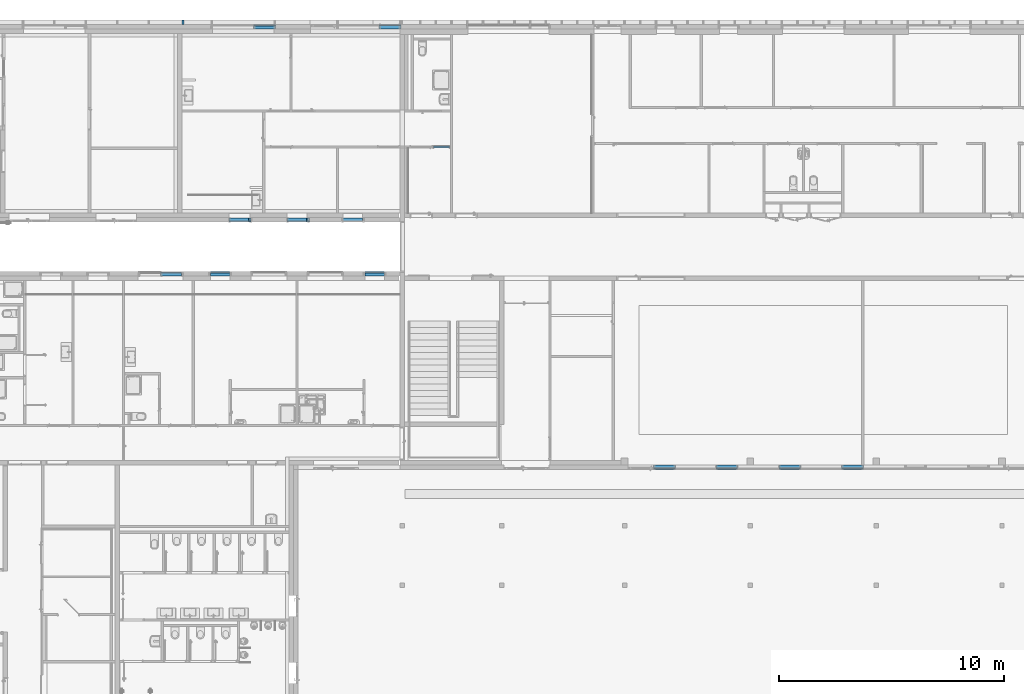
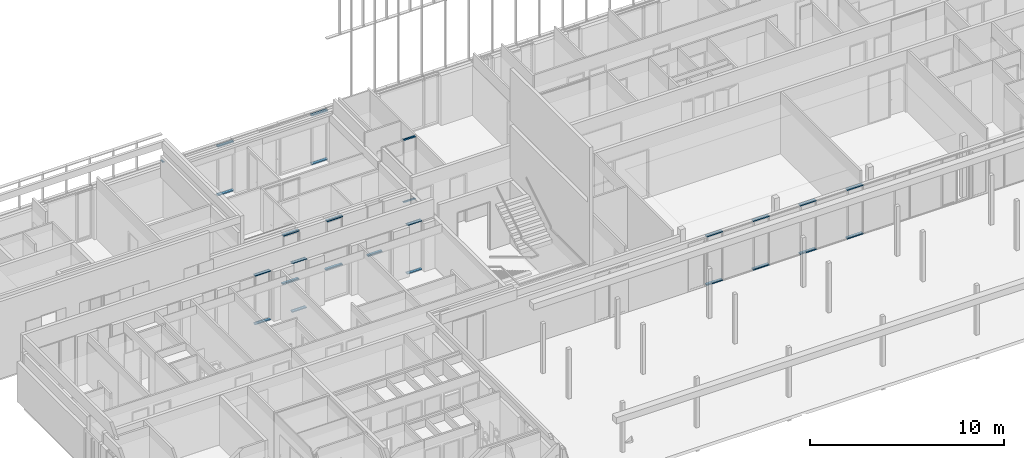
# One storey, part 39 of 240: 30 members, 11 elements without a shape of their own.
"""IFC2X3 building model written with IfcOpenShell, lengths in centimetres."""

import ifcopenshell
import ifcopenshell.guid

model = None  # the IFC model being written
_history = None  # IfcOwnerHistory: only IFC2X3 demands one
_inside = {}  # id of a spatial element -> (the spatial element, [elements in it])
_under = {}  # id of a project, library or spatial element -> (it, [spatial elements below it])
_declared = {}  # id of a project -> (the project, [libraries it declares])
_typed = {}  # id of a type object -> (the type object, [elements of that type])
_made_of = {}  # id of a material, layer set ... -> (it, [elements and type objects made of it])


def new_model(schema):
    """Start an empty IFC model of exactly this schema.

    Asked for "IFC4X3", IfcOpenShell would pick the latest addendum, in which some entities
    have other attributes; the version numbers below select the first issue.
    IFC2X3 requires an IfcOwnerHistory on every rooted entity: one is made here for all.
    """
    global model, _history
    if schema == "IFC4X3":
        model = ifcopenshell.file(schema_version=(4, 3, 0, 0))
    else:
        model = ifcopenshell.file(schema=schema)
    _inside.clear()
    _under.clear()
    _declared.clear()
    _typed.clear()
    _made_of.clear()
    _history = None
    if model.schema == "IFC2X3":
        org = make("IfcOrganization", Name="unknown")
        user = make(
            "IfcPersonAndOrganization",
            ThePerson=make("IfcPerson", FamilyName="unknown"),
            TheOrganization=org,
        )
        app = make(
            "IfcApplication",
            ApplicationDeveloper=org,
            Version="unknown",
            ApplicationFullName="unknown",
            ApplicationIdentifier="unknown",
        )
        _history = make(
            "IfcOwnerHistory",
            OwningUser=user,
            OwningApplication=app,
            ChangeAction="ADDED",
            CreationDate=0,
        )
    return model


def make(cls, **values):
    """One entity of the class cls with the attributes given. An attribute that is None is left unset."""
    return model.create_entity(
        cls, **{name: value for name, value in values.items() if value is not None}
    )


def entity(cls, *values):
    """Any entity or typed value of the class cls, its attributes in the order of the schema. None: left unset."""
    e = model.create_entity(cls)
    for i, value in enumerate(values):
        if value is not None:
            e[i] = value
    return e


def rooted(cls, **values):
    """An entity with a GlobalId (a new one), such as an element, a storey or a relation."""
    return make(cls, GlobalId=ifcopenshell.guid.new(), OwnerHistory=_history, **values)


def si_unit(unit_type, name, prefix=None):
    """IfcSIUnit, for example si_unit("LENGTHUNIT", "METRE", prefix="MILLI")."""
    return make("IfcSIUnit", UnitType=unit_type, Prefix=prefix, Name=name)


def converted_unit(unit_type, name, factor, base, dimensions=None, offset=None):
    """IfcConversionBasedUnit, such as the inch: factor (a typed value) times the base unit."""
    return make(
        "IfcConversionBasedUnit"
        if offset is None
        else "IfcConversionBasedUnitWithOffset",
        ConversionOffset=offset,
        Dimensions=None
        if dimensions is None
        else entity("IfcDimensionalExponents", *dimensions),
        UnitType=unit_type,
        Name=name,
        ConversionFactor=make(
            "IfcMeasureWithUnit", ValueComponent=factor, UnitComponent=base
        ),
    )


def derived_unit(unit_type, elements):
    """IfcDerivedUnit: a product of units, each with its exponent."""
    return make(
        "IfcDerivedUnit",
        Elements=[
            make("IfcDerivedUnitElement", Unit=unit, Exponent=power)
            for unit, power in elements
        ],
        UnitType=unit_type,
    )


def assignment(units):
    """IfcUnitAssignment: the units of a project."""
    return None if units is None else make("IfcUnitAssignment", Units=units)


def point(xyz):
    """IfcCartesianPoint."""
    return None if xyz is None else make("IfcCartesianPoint", Coordinates=xyz)


def direction(xyz):
    """IfcDirection."""
    return None if xyz is None else make("IfcDirection", DirectionRatios=xyz)


def frame(location, z_axis=None, x_axis=None):
    """IfcAxis2Placement3D, a coordinate frame: its origin and axes. An axis left out is left unset."""
    return make(
        "IfcAxis2Placement3D",
        Location=point(location),
        Axis=direction(z_axis),
        RefDirection=direction(x_axis),
    )


def frame_2d(location, x_axis=None):
    """IfcAxis2Placement2D, a coordinate frame in the plane: its origin and x axis."""
    return make(
        "IfcAxis2Placement2D", Location=point(location), RefDirection=direction(x_axis)
    )


def origin():
    """The frame at (0, 0, 0) with its axes left unset."""
    return frame((0.0, 0.0, 0.0))


def origin_2d_with_axis():
    """The frame at (0, 0) in the plane with the x axis (1, 0) written out."""
    return frame_2d((0.0, 0.0), x_axis=(1.0, 0.0))


def place(relative_to, where):
    """IfcLocalPlacement: puts the frame where relative to a parent placement (None: the world)."""
    return make(
        "IfcLocalPlacement", PlacementRelTo=relative_to, RelativePlacement=where
    )


def context(
    kind, dimensions, precision=None, world=None, true_north=None, identifier=None
):
    """IfcGeometricRepresentationContext, for example the 3D "Model" context."""
    return make(
        "IfcGeometricRepresentationContext",
        ContextIdentifier=identifier,
        ContextType=kind,
        CoordinateSpaceDimension=dimensions,
        Precision=precision,
        WorldCoordinateSystem=world,
        TrueNorth=true_north,
    )


def subcontext(parent, identifier, kind, view, scale=None):
    """IfcGeometricRepresentationSubContext, for example "Body" below "Model"."""
    return make(
        "IfcGeometricRepresentationSubContext",
        ContextIdentifier=identifier,
        ContextType=kind,
        ParentContext=parent,
        TargetScale=scale,
        TargetView=view,
    )


def project(units=None, contexts=None):
    """IfcProject with its units and contexts."""
    return rooted(
        "IfcProject",
        Name="project",
        RepresentationContexts=contexts,
        UnitsInContext=assignment(units),
    )


def spatial(cls, under=None, at=None, **own):
    """A site, building, storey or space (cls), placed at a placement, below another one or the project."""
    s = rooted(cls, ObjectPlacement=at, **own)
    if under is not None:
        _under.setdefault(under.id(), (under, []))[1].append(s)
    return s


def polyline(points):
    """IfcPolyline through the points."""
    return make("IfcPolyline", Points=[point(p) for p in points])


def profile(cls, at=None, kind="AREA", **sizes):
    """A parametric profile (cls). Its sizes go by their IFC names, for example OverallWidth=200.0."""
    return make(cls, ProfileType=kind, Position=at, **sizes)


def rectangle(**sizes):
    """IfcRectangleProfileDef."""
    return profile("IfcRectangleProfileDef", **sizes)


def outline(outer, holes=None, kind="AREA"):
    """IfcArbitraryClosedProfileDef: a profile drawn as a closed curve; with holes, ...WithVoids."""
    if holes is None:
        return make("IfcArbitraryClosedProfileDef", ProfileType=kind, OuterCurve=outer)
    return make(
        "IfcArbitraryProfileDefWithVoids",
        ProfileType=kind,
        OuterCurve=outer,
        InnerCurves=holes,
    )


def extrude(swept, where, along, depth):
    """IfcExtrudedAreaSolid: the profile swept, set in the frame where, extruded along a direction by depth."""
    return make(
        "IfcExtrudedAreaSolid",
        SweptArea=swept,
        Position=where,
        ExtrudedDirection=direction(along),
        Depth=depth,
    )


def shape(context_of_items, identifier, shape_type, items):
    """IfcShapeRepresentation: the items that make up one representation, for example the "Body"."""
    return make(
        "IfcShapeRepresentation",
        ContextOfItems=context_of_items,
        RepresentationIdentifier=identifier,
        RepresentationType=shape_type,
        Items=items,
    )


def source(mapping_origin, context_of_items, identifier, shape_type, items):
    """IfcRepresentationMap: a shape defined once, which mapped items show again and again."""
    return make(
        "IfcRepresentationMap",
        MappingOrigin=mapping_origin,
        MappedRepresentation=shape(context_of_items, identifier, shape_type, items),
    )


def transform(
    local_origin,
    x_axis=None,
    y_axis=None,
    z_axis=None,
    scale=None,
    scale2=None,
    scale3=None,
    uniform=True,
):
    """IfcCartesianTransformationOperator3D, or its non-uniform kind. x_axis, y_axis, z_axis: its Axis1, 2, 3."""
    if uniform:
        return make(
            "IfcCartesianTransformationOperator3D",
            Axis1=direction(x_axis),
            Axis2=direction(y_axis),
            LocalOrigin=point(local_origin),
            Scale=scale,
            Axis3=direction(z_axis),
        )
    return make(
        "IfcCartesianTransformationOperator3DnonUniform",
        Axis1=direction(x_axis),
        Axis2=direction(y_axis),
        LocalOrigin=point(local_origin),
        Scale=scale,
        Axis3=direction(z_axis),
        Scale2=scale2,
        Scale3=scale3,
    )


def mapped(mapping_source, mapping_target):
    """IfcMappedItem: shows the shape of a source again, moved by a transform."""
    return make(
        "IfcMappedItem", MappingSource=mapping_source, MappingTarget=mapping_target
    )


def material(Name=None, Category=None):
    """IfcMaterial."""
    return make("IfcMaterial", Name=Name, Category=Category)


def made_of(thing, what):
    """Note that an element or type object is made of a material, layer set ...; save() writes the relation."""
    if what is not None:
        _made_of.setdefault(what.id(), (what, []))[1].append(thing)
    return thing


def type_object(cls, material=None, **own):
    """A type object (cls), such as IfcWallType, which elements share."""
    return made_of(rooted(cls, **own), material)


def type_shapes(of_type, sources):
    """Give a type object the sources (RepresentationMaps) that its elements show as mapped items."""
    of_type.RepresentationMaps = sources


def element(
    cls,
    number,
    at=None,
    inside=None,
    cuts=None,
    type_object=None,
    material=None,
    context=None,
    identifier="Body",
    shape_type=None,
    held_by="IfcProductDefinitionShape",
    body=None,
    shapes=None,
    **own,
):
    """One element of the class cls, such as IfcWall. Its Tag is "e" and its number.

    at: its placement. inside: the storey or other place that contains it. cuts: it is an
    opening in that element (IfcRelVoidsElement). A single representation is given by context,
    identifier, shape_type and body (its items); several are given by shapes. held_by: the class
    of the entity that holds the representations. save() writes the other relations.
    """
    e = rooted(cls, Tag="e%d" % number, ObjectPlacement=at, **own)
    if body is not None:
        shapes = [shape(context, identifier, shape_type, body)]
    if shapes is not None:
        e.Representation = make(held_by, Representations=shapes)
    if inside is not None:
        _inside.setdefault(inside.id(), (inside, []))[1].append(e)
    if cuts is not None:
        rooted(
            "IfcRelVoidsElement", RelatingBuildingElement=cuts, RelatedOpeningElement=e
        )
    if type_object is not None:
        _typed.setdefault(type_object.id(), (type_object, []))[1].append(e)
    return made_of(e, material)


def aggregate(whole, parts):
    """IfcRelAggregates: a whole, such as a stair, and the parts it consists of."""
    return rooted("IfcRelAggregates", RelatingObject=whole, RelatedObjects=parts)


def save(model, path):
    """Write the relations noted so far, then the file.

    IfcRelAggregates (storeys below a building ...), IfcRelContainedInSpatialStructure (elements
    in a storey), IfcRelDefinesByType, IfcRelAssociatesMaterial and IfcRelDeclares: one each for
    every whole, place, type object, material and project.
    """
    for whole, parts in _under.values():
        aggregate(whole, parts)
    for where, things in _inside.values():
        rooted(
            "IfcRelContainedInSpatialStructure",
            RelatedElements=things,
            RelatingStructure=where,
        )
    for kind, things in _typed.values():
        rooted("IfcRelDefinesByType", RelatedObjects=things, RelatingType=kind)
    for what, things in _made_of.values():
        rooted("IfcRelAssociatesMaterial", RelatedObjects=things, RelatingMaterial=what)
    for by, libraries in _declared.values():
        rooted("IfcRelDeclares", RelatingContext=by, RelatedDefinitions=libraries)
    model.write(path)


model = new_model("IFC2X3")

# Units and contexts
model_context = context("Model", 3, precision=0.001, world=origin(), true_north=direction((6.12303176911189e-17, 1.0)))
body_context = subcontext(model_context, "Body", "Model", "MODEL_VIEW")
ifc_project = project(units=[si_unit("LENGTHUNIT", "METRE", prefix="CENTI"), si_unit("AREAUNIT", "SQUARE_METRE"), si_unit("VOLUMEUNIT", "CUBIC_METRE"), converted_unit("PLANEANGLEUNIT", "DEGREE", entity("IfcRatioMeasure", 0.0174532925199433), si_unit("PLANEANGLEUNIT", "RADIAN"), dimensions=[0, 0, 0, 0, 0, 0, 0]), si_unit("MASSUNIT", "GRAM", prefix="KILO"), derived_unit("MASSDENSITYUNIT", [(si_unit("MASSUNIT", "GRAM", prefix="KILO"), 1), (si_unit("LENGTHUNIT", "METRE"), -3)]), si_unit("TIMEUNIT", "SECOND"), si_unit("FREQUENCYUNIT", "HERTZ"), si_unit("THERMODYNAMICTEMPERATUREUNIT", "DEGREE_CELSIUS"), derived_unit("THERMALTRANSMITTANCEUNIT", [(si_unit("MASSUNIT", "GRAM", prefix="KILO"), 1), (si_unit("THERMODYNAMICTEMPERATUREUNIT", "KELVIN"), -1), (si_unit("TIMEUNIT", "SECOND"), -3)]), derived_unit("VOLUMETRICFLOWRATEUNIT", [(si_unit("LENGTHUNIT", "METRE"), 3), (si_unit("TIMEUNIT", "SECOND"), -1)]), si_unit("ELECTRICCURRENTUNIT", "AMPERE"), si_unit("ELECTRICVOLTAGEUNIT", "VOLT"), si_unit("POWERUNIT", "WATT"), si_unit("FORCEUNIT", "NEWTON", prefix="KILO"), si_unit("ILLUMINANCEUNIT", "LUX"), si_unit("LUMINOUSFLUXUNIT", "LUMEN"), si_unit("LUMINOUSINTENSITYUNIT", "CANDELA"), derived_unit("USERDEFINED", [(si_unit("MASSUNIT", "GRAM", prefix="KILO"), -1), (si_unit("LENGTHUNIT", "METRE"), -2), (si_unit("TIMEUNIT", "SECOND"), 3), (si_unit("LUMINOUSFLUXUNIT", "LUMEN"), 1)]), derived_unit("LINEARVELOCITYUNIT", [(si_unit("LENGTHUNIT", "METRE"), 1), (si_unit("TIMEUNIT", "SECOND"), -1)]), si_unit("PRESSUREUNIT", "PASCAL"), derived_unit("USERDEFINED", [(si_unit("LENGTHUNIT", "METRE"), -2), (si_unit("MASSUNIT", "GRAM", prefix="KILO"), 1), (si_unit("TIMEUNIT", "SECOND"), -2)])], contexts=[model_context])

# Site, building, storey
site_placement = place(None, frame((-2781.94577612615, 7442.24238424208, 0.0)))
site = spatial("IfcSite", under=ifc_project, at=site_placement, Name="Default", CompositionType="ELEMENT")
building_placement = place(site_placement, origin())
building = spatial("IfcBuilding", under=site, at=building_placement, CompositionType="ELEMENT")
storey_placement = place(building_placement, origin())
storey = spatial("IfcBuildingStorey", under=building, at=storey_placement, Name="N00 - COO", CompositionType="ELEMENT", Elevation=0.0)

# Curtain wall, members
curtain_wall_type_1 = type_object("IfcCurtainWallType", Name="Mur-rideau:07 - mur rideau trame 280 cm", PredefinedType="NOTDEFINED")
curtain_wall_1_placement = place(building_placement, origin())
curtain_wall_1 = element("IfcCurtainWall", 1, at=curtain_wall_1_placement, inside=storey, type_object=curtain_wall_type_1, Name="Mur-rideau:07 - mur rideau trame 280 cm", ObjectType="Mur-rideau:07 - mur rideau trame 280 cm")
ifc_material_1 = material(Name="Aluminium")
member_type_1 = type_object("IfcMemberType", Name="150 x 25mm Détails", PredefinedType="MEMBER")
shared_shape_1 = source(origin(), body_context, "Body", "SweptSolid", [
    extrude(outline(polyline([(-5.6666666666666, -3.24999999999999), (-3.66666666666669, -3.24999999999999), (-3.66666666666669, -0.868749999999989), (-0.166666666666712, -0.868749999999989), (-0.166666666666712, -3.25000000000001), (13.3333333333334, -3.25000000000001), (13.3333333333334, 3.24999999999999), (-0.16666666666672, 3.24999999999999), (-0.16666666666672, 0.868749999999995), (-3.66666666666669, 0.868749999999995), (-3.66666666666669, 3.25), (-5.6666666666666, 3.25), (-5.6666666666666, -3.24999999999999)])), frame((-3.24999999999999, -1.96666666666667, -96.5000000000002), z_axis=(0.0, 0.0, 1.0), x_axis=(0.0, -1.0, 0.0)), (0.0, 0.0, 1.0), 96.5),
])
type_shapes(member_type_1, [shared_shape_1])
member_1_placement = place(building_placement, frame((-6646.24987760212, -1946.27903364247, 6.5), z_axis=(1.0, 0.0, 0.0), x_axis=(0.0, 0.0, 1.0)))
member_1 = element("IfcMember", 2, at=member_1_placement, type_object=member_type_1, material=ifc_material_1, Name="Meneau rectangulaire:150 x 25mm Détails", ObjectType="Meneau rectangulaire:150 x 25mm Détails", context=body_context, shape_type="MappedRepresentation", body=[
    mapped(shared_shape_1, transform((0.0, 0.0, 0.0), scale=1.0)),
])
member_2_placement = place(building_placement, frame((-6926.24987760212, -1946.27903364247, 6.5), z_axis=(1.0, 0.0, 0.0), x_axis=(0.0, 0.0, 1.0)))
member_2 = element("IfcMember", 3, at=member_2_placement, type_object=member_type_1, material=ifc_material_1, Name="Meneau rectangulaire:150 x 25mm Détails", ObjectType="Meneau rectangulaire:150 x 25mm Détails", context=body_context, shape_type="MappedRepresentation", body=[
    mapped(shared_shape_1, transform((0.0, 0.0, 0.0), scale=1.0)),
])
member_3_placement = place(building_placement, frame((-6366.24987760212, -1946.27903364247, 6.5), z_axis=(1.0, 0.0, 0.0), x_axis=(0.0, 0.0, 1.0)))
member_3 = element("IfcMember", 4, at=member_3_placement, type_object=member_type_1, material=ifc_material_1, Name="Meneau rectangulaire:150 x 25mm Détails", ObjectType="Meneau rectangulaire:150 x 25mm Détails", context=body_context, shape_type="MappedRepresentation", body=[
    mapped(shared_shape_1, transform((0.0, 0.0, 0.0), scale=1.0)),
])
member_4_placement = place(building_placement, frame((-7202.9998776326, -1946.27903364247, 6.5), z_axis=(1.0, 0.0, 0.0), x_axis=(0.0, 0.0, 1.0)))
member_4 = element("IfcMember", 5, at=member_4_placement, type_object=member_type_1, material=ifc_material_1, Name="Meneau rectangulaire:150 x 25mm Détails", ObjectType="Meneau rectangulaire:150 x 25mm Détails", context=body_context, shape_type="MappedRepresentation", body=[
    mapped(shared_shape_1, transform((0.0, 0.0, 0.0), scale=1.0)),
])
member_type_2 = type_object("IfcMemberType", Name="150 x 25mm Détails", PredefinedType="MEMBER")
shared_shape_2 = source(origin(), body_context, "Body", "SweptSolid", [
    extrude(outline(polyline([(-5.66666666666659, -3.25), (-3.66666666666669, -3.25), (-3.66666666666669, -0.868749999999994), (-0.166666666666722, -0.868749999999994), (-0.166666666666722, -3.25000000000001), (13.3333333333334, -3.24999999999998), (13.3333333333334, 3.25000000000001), (-0.166666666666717, 3.25000000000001), (-0.166666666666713, 0.868749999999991), (-3.66666666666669, 0.868749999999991), (-3.66666666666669, 3.24999999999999), (-5.66666666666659, 3.24999999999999), (-5.66666666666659, -3.25)])), frame((-3.24999999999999, -1.96666666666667, -96.5000000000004), z_axis=(0.0, 0.0, 1.0), x_axis=(0.0, -1.0, 0.0)), (0.0, 0.0, 1.0), 96.5),
])
type_shapes(member_type_2, [shared_shape_2])
member_5_placement = place(building_placement, frame((-6462.74987760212, -1946.27903364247, 306.0), z_axis=(-1.0, 0.0, 0.0), x_axis=(0.0, 0.0, -1.0)))
member_5 = element("IfcMember", 6, at=member_5_placement, type_object=member_type_2, material=ifc_material_1, Name="Meneau rectangulaire:150 x 25mm Détails", ObjectType="Meneau rectangulaire:150 x 25mm Détails", context=body_context, shape_type="MappedRepresentation", body=[
    mapped(shared_shape_2, transform((0.0, 0.0, 0.0), scale=1.0)),
])
member_6_placement = place(building_placement, frame((-6742.74987760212, -1946.27903364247, 306.0), z_axis=(-1.0, 0.0, 0.0), x_axis=(0.0, 0.0, -1.0)))
member_6 = element("IfcMember", 7, at=member_6_placement, type_object=member_type_2, material=ifc_material_1, Name="Meneau rectangulaire:150 x 25mm Détails", ObjectType="Meneau rectangulaire:150 x 25mm Détails", context=body_context, shape_type="MappedRepresentation", body=[
    mapped(shared_shape_2, transform((0.0, 0.0, 0.0), scale=1.0)),
])
member_7_placement = place(building_placement, frame((-7022.74987760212, -1946.27903364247, 306.0), z_axis=(-1.0, 0.0, 0.0), x_axis=(0.0, 0.0, -1.0)))
member_7 = element("IfcMember", 8, at=member_7_placement, type_object=member_type_2, material=ifc_material_1, Name="Meneau rectangulaire:150 x 25mm Détails", ObjectType="Meneau rectangulaire:150 x 25mm Détails", context=body_context, shape_type="MappedRepresentation", body=[
    mapped(shared_shape_2, transform((0.0, 0.0, 0.0), scale=1.0)),
])
member_8_placement = place(building_placement, frame((-7299.4998776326, -1946.27903364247, 306.0), z_axis=(-1.0, 0.0, 0.0), x_axis=(0.0, 0.0, -1.0)))
member_8 = element("IfcMember", 9, at=member_8_placement, type_object=member_type_2, material=ifc_material_1, Name="Meneau rectangulaire:150 x 25mm Détails", ObjectType="Meneau rectangulaire:150 x 25mm Détails", context=body_context, shape_type="MappedRepresentation", body=[
    mapped(shared_shape_2, transform((0.0, 0.0, 0.0), scale=1.0)),
])
aggregate(curtain_wall_1, [member_1, member_2, member_3, member_4, member_5, member_6, member_7, member_8])

# Curtain wall, member
curtain_wall_type_2 = type_object("IfcCurtainWallType", Name="Mur-rideau:07 - mur rideau trame 280 cm RDC maintenance", PredefinedType="NOTDEFINED")
curtain_wall_2_placement = place(building_placement, origin())
curtain_wall_2 = element("IfcCurtainWall", 10, at=curtain_wall_2_placement, inside=storey, type_object=curtain_wall_type_2, Name="Mur-rideau:07 - mur rideau trame 280 cm RDC maintenance", ObjectType="Mur-rideau:07 - mur rideau trame 280 cm RDC maintenance")
member_type_3 = type_object("IfcMemberType", Name="150 x 25mm Détails", PredefinedType="MEMBER")
shared_shape_3 = source(origin(), body_context, "Body", "SweptSolid", [
    extrude(outline(polyline([(-13.3333333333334, -3.25000000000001), (0.166666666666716, -3.25000000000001), (0.166666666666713, -0.86874999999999), (3.66666666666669, -0.86874999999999), (3.66666666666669, -3.24999999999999), (5.66666666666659, -3.24999999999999), (5.66666666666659, 3.25), (3.66666666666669, 3.25), (3.66666666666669, 0.868749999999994), (0.166666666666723, 0.868749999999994), (0.166666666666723, 3.25000000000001), (-13.3333333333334, 3.24999999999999), (-13.3333333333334, -3.25000000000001)])), frame((-3.24999999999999, 1.96666666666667, -96.5000000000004), z_axis=(0.0, 0.0, 1.0), x_axis=(0.0, -1.0, 0.0)), (0.0, 0.0, 1.0), 96.5),
])
type_shapes(member_type_3, [shared_shape_3])
member_9_placement = place(building_placement, frame((-8983.74987766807, 26.2000000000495, 6.5), z_axis=(1.0, 0.0, 0.0), x_axis=(0.0, 0.0, 1.0)))
member_9 = element("IfcMember", 11, at=member_9_placement, type_object=member_type_3, material=ifc_material_1, Name="Meneau rectangulaire:150 x 25mm Détails", ObjectType="Meneau rectangulaire:150 x 25mm Détails", context=body_context, shape_type="MappedRepresentation", body=[
    mapped(shared_shape_3, transform((0.0, 0.0, 0.0), scale=1.0)),
])

curtain_wall_3_placement = place(building_placement, origin())
curtain_wall_3 = element("IfcCurtainWall", 12, at=curtain_wall_3_placement, inside=storey, type_object=curtain_wall_type_1, Name="Mur-rideau:07 - mur rideau trame 280 cm", ObjectType="Mur-rideau:07 - mur rideau trame 280 cm")
member_10_placement = place(building_placement, frame((-8424.74987766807, 26.3000000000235, 6.5), z_axis=(1.0, 0.0, 0.0), x_axis=(0.0, 0.0, 1.0)))
member_10 = element("IfcMember", 13, at=member_10_placement, type_object=member_type_3, material=ifc_material_1, Name="Meneau rectangulaire:150 x 25mm Détails", ObjectType="Meneau rectangulaire:150 x 25mm Détails", context=body_context, shape_type="MappedRepresentation", body=[
    mapped(shared_shape_3, transform((0.0, 0.0, 0.0), scale=1.0)),
])

# Member
member_type_4 = type_object("IfcMemberType", Name="150 x 25mm Détails", PredefinedType="MEMBER")
shared_shape_4 = source(origin(), body_context, "Body", "SweptSolid", [
    extrude(outline(polyline([(-13.3333333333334, -3.24999999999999), (0.166666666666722, -3.24999999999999), (0.166666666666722, -0.868749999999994), (3.66666666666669, -0.868749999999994), (3.66666666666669, -3.25), (5.66666666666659, -3.25), (5.66666666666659, 3.24999999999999), (3.66666666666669, 3.24999999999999), (3.66666666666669, 0.86874999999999), (0.166666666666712, 0.86874999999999), (0.166666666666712, 3.25000000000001), (-13.3333333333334, 3.25000000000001), (-13.3333333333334, -3.24999999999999)])), frame((-3.24999999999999, 1.96666666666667, -96.5000000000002), z_axis=(0.0, 0.0, 1.0), x_axis=(0.0, -1.0, 0.0)), (0.0, 0.0, 1.0), 96.5),
])
type_shapes(member_type_4, [shared_shape_4])
member_11_placement = place(building_placement, frame((-9080.24987766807, 26.2000000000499, 306.0), z_axis=(-1.0, 0.0, 0.0), x_axis=(0.0, 0.0, -1.0)))
member_11 = element("IfcMember", 14, at=member_11_placement, type_object=member_type_4, material=ifc_material_1, Name="Meneau rectangulaire:150 x 25mm Détails", ObjectType="Meneau rectangulaire:150 x 25mm Détails", context=body_context, shape_type="MappedRepresentation", body=[
    mapped(shared_shape_4, transform((0.0, 0.0, 0.0), scale=1.0)),
])

aggregate(curtain_wall_2, [member_11, member_9])

member_12_placement = place(building_placement, frame((-8521.24987766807, 26.3000000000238, 306.0), z_axis=(-1.0, 0.0, 0.0), x_axis=(0.0, 0.0, -1.0)))
member_12 = element("IfcMember", 15, at=member_12_placement, type_object=member_type_4, material=ifc_material_1, Name="Meneau rectangulaire:150 x 25mm Détails", ObjectType="Meneau rectangulaire:150 x 25mm Détails", context=body_context, shape_type="MappedRepresentation", body=[
    mapped(shared_shape_4, transform((0.0, 0.0, 0.0), scale=1.0)),
])

aggregate(curtain_wall_3, [member_10, member_12])

# Curtain wall, member
curtain_wall_type_3 = type_object("IfcCurtainWallType", Name="Mur-rideau:Epines - 200x50mm", PredefinedType="NOTDEFINED")
curtain_wall_4_placement = place(building_placement, origin())
curtain_wall_4 = element("IfcCurtainWall", 16, at=curtain_wall_4_placement, inside=storey, type_object=curtain_wall_type_3, Name="Mur-rideau:Epines - 200x50mm", ObjectType="Mur-rideau:Epines - 200x50mm")
member_type_5 = type_object("IfcMemberType", Name="200x50 mm", PredefinedType="MEMBER")
shared_shape_5 = source(origin(), body_context, "Body", "SweptSolid", [
    extrude(rectangle(XDim=20.0, YDim=5.0, at=origin_2d_with_axis()), frame((-2.5, 0.0, -10.000000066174), z_axis=(0.0, 0.0, 1.0), x_axis=(0.0, -1.0, 0.0)), (0.0, 0.0, 1.0), 10.0000000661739),
])
type_shapes(member_type_5, [shared_shape_5])
member_13_placement = place(building_placement, frame((-9389.49987760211, 40.0, 316.500000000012), z_axis=(1.0, 0.0, 0.0), x_axis=(0.0, 0.0, 1.0)))
member_13 = element("IfcMember", 17, at=member_13_placement, type_object=member_type_5, material=ifc_material_1, Name="Meneau rectangulaire:200x50 mm", ObjectType="Meneau rectangulaire:200x50 mm", context=body_context, shape_type="MappedRepresentation", body=[
    mapped(shared_shape_5, transform((0.0, 0.0, 0.0), scale=1.0)),
])
aggregate(curtain_wall_4, [member_13])

# Curtain wall, members
curtain_wall_type_4 = type_object("IfcCurtainWallType", Name="Mur-rideau:07 - mur rideau trame 100cm", PredefinedType="NOTDEFINED")
curtain_wall_5_placement = place(building_placement, origin())
curtain_wall_5 = element("IfcCurtainWall", 18, at=curtain_wall_5_placement, inside=storey, type_object=curtain_wall_type_4, Name="Mur-rideau:07 - mur rideau trame 100cm", ObjectType="Mur-rideau:07 - mur rideau trame 100cm")
member_type_6 = type_object("IfcMemberType", Name="150 x 25mm Détails", PredefinedType="MEMBER")
shared_shape_6 = source(origin(), body_context, "Body", "SweptSolid", [
    extrude(outline(polyline([(-13.3333333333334, -3.24999999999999), (0.166666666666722, -3.24999999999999), (0.166666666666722, -0.868749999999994), (3.66666666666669, -0.868749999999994), (3.66666666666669, -3.25), (5.66666666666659, -3.25), (5.66666666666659, 3.24999999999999), (3.66666666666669, 3.24999999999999), (3.66666666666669, 0.86874999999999), (0.166666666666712, 0.86874999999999), (0.166666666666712, 3.25000000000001), (-13.3333333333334, 3.25000000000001), (-13.3333333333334, -3.24999999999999)])), frame((-3.24999999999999, 1.96666666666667, -93.4999999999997), z_axis=(0.0, 0.0, 1.0), x_axis=(0.0, -1.0, 0.0)), (0.0, 0.0, 1.0), 93.4999999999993),
])
type_shapes(member_type_6, [shared_shape_6])
member_14_placement = place(building_placement, frame((-9494.49987766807, -1074.89999990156, 306.0), z_axis=(-1.0, 0.0, 0.0), x_axis=(0.0, 0.0, -1.0)))
member_14 = element("IfcMember", 19, at=member_14_placement, type_object=member_type_6, material=ifc_material_1, Name="Meneau rectangulaire:150 x 25mm Détails", ObjectType="Meneau rectangulaire:150 x 25mm Détails", context=body_context, shape_type="MappedRepresentation", body=[
    mapped(shared_shape_6, transform((0.0, 0.0, 0.0), scale=1.0)),
])
member_type_7 = type_object("IfcMemberType", Name="150 x 25mm Détails", PredefinedType="MEMBER")
shared_shape_7 = source(origin(), body_context, "Body", "SweptSolid", [
    extrude(outline(polyline([(-13.3333333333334, -3.25000000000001), (0.166666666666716, -3.25000000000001), (0.166666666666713, -0.86874999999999), (3.66666666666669, -0.86874999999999), (3.66666666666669, -3.24999999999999), (5.66666666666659, -3.24999999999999), (5.66666666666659, 3.25), (3.66666666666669, 3.25), (3.66666666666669, 0.868749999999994), (0.166666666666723, 0.868749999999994), (0.166666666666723, 3.25000000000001), (-13.3333333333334, 3.24999999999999), (-13.3333333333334, -3.25000000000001)])), frame((-3.24999999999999, 1.96666666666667, -93.4999999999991), z_axis=(0.0, 0.0, 1.0), x_axis=(0.0, -1.0, 0.0)), (0.0, 0.0, 1.0), 93.4999999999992),
])
type_shapes(member_type_7, [shared_shape_7])
member_15_placement = place(building_placement, frame((-9400.99987766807, -1074.89999990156, 6.5), z_axis=(1.0, 0.0, 0.0), x_axis=(0.0, 0.0, 1.0)))
member_15 = element("IfcMember", 20, at=member_15_placement, type_object=member_type_7, material=ifc_material_1, Name="Meneau rectangulaire:150 x 25mm Détails", ObjectType="Meneau rectangulaire:150 x 25mm Détails", context=body_context, shape_type="MappedRepresentation", body=[
    mapped(shared_shape_7, transform((0.0, 0.0, 0.0), scale=1.0)),
])
aggregate(curtain_wall_5, [member_14, member_15])

curtain_wall_type_5 = type_object("IfcCurtainWallType", PredefinedType="NOTDEFINED")
curtain_wall_6_placement = place(building_placement, origin())
curtain_wall_6 = element("IfcCurtainWall", 21, at=curtain_wall_6_placement, inside=storey, type_object=curtain_wall_type_5)
ifc_material_2 = material(Name="Plastique, blanc opaque")
member_type_8 = type_object("IfcMemberType", Name="100 x 50mm", PredefinedType="MEMBER")
shared_shape_8 = source(origin(), body_context, "Body", "SweptSolid", [
    extrude(rectangle(XDim=10.0, YDim=5.0, at=origin_2d_with_axis()), frame((-2.5, 0.0, -69.7000000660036), z_axis=(0.0, 0.0, 1.0), x_axis=(0.0, -1.0, 0.0)), (0.0, 0.0, 1.0), 69.7000000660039),
])
type_shapes(member_type_8, [shared_shape_8])
member_16_placement = place(building_placement, frame((-8209.49987760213, -515.0, 396.0), z_axis=(1.0, 0.0, 0.0), x_axis=(0.0, 0.0, 1.0)))
member_16 = element("IfcMember", 22, at=member_16_placement, type_object=member_type_8, material=ifc_material_2, Name="Meneau rectangulaire:100 x 50mm", ObjectType="Meneau rectangulaire:100 x 50mm", context=body_context, shape_type="MappedRepresentation", body=[
    mapped(shared_shape_8, transform((0.0, 0.0, 0.0), scale=1.0)),
])
member_type_9 = type_object("IfcMemberType", Name="100 x 50mm", PredefinedType="MEMBER")
shared_shape_9 = source(origin(), body_context, "Body", "SweptSolid", [
    extrude(rectangle(XDim=10.0, YDim=5.0, at=origin_2d_with_axis()), frame((-2.5, 0.0, -69.7000000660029), z_axis=(0.0, 0.0, 1.0), x_axis=(0.0, -1.0, 0.0)), (0.0, 0.0, 1.0), 69.7000000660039),
])
type_shapes(member_type_9, [shared_shape_9])
member_17_placement = place(building_placement, frame((-8279.19987766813, -515.0, 0.0), z_axis=(-1.0, 0.0, 0.0), x_axis=(0.0, 0.0, -1.0)))
member_17 = element("IfcMember", 23, at=member_17_placement, type_object=member_type_9, material=ifc_material_2, Name="Meneau rectangulaire:100 x 50mm", ObjectType="Meneau rectangulaire:100 x 50mm", context=body_context, shape_type="MappedRepresentation", body=[
    mapped(shared_shape_9, transform((0.0, 0.0, 0.0), scale=1.0)),
])
aggregate(curtain_wall_6, [member_16, member_17])

# Curtain wall, member
curtain_wall_7_placement = place(building_placement, origin())
curtain_wall_7 = element("IfcCurtainWall", 24, at=curtain_wall_7_placement, inside=storey, type_object=curtain_wall_type_1, Name="Mur-rideau:07 - mur rideau trame 280 cm", ObjectType="Mur-rideau:07 - mur rideau trame 280 cm")
member_type_10 = type_object("IfcMemberType", Name="150 x 25mm Détails", PredefinedType="MEMBER")
shared_shape_10 = source(origin(), body_context, "Body", "SweptSolid", [
    extrude(outline(polyline([(-13.3333333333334, -3.24999999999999), (0.166666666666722, -3.24999999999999), (0.166666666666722, -0.868749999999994), (3.66666666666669, -0.868749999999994), (3.66666666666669, -3.25), (5.66666666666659, -3.25), (5.66666666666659, 3.24999999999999), (3.66666666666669, 3.24999999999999), (3.66666666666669, 0.86874999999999), (0.166666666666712, 0.86874999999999), (0.166666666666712, 3.25000000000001), (-13.3333333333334, 3.25000000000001), (-13.3333333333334, -3.24999999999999)])), frame((-3.24999999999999, 1.96666666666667, -87.0), z_axis=(0.0, 0.0, 1.0), x_axis=(0.0, -1.0, 0.0)), (0.0, 0.0, 1.0), 86.9999999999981),
])
type_shapes(member_type_10, [shared_shape_10])
member_18_placement = place(building_placement, frame((-8585.49987766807, -1073.69999990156, 0.0), z_axis=(-1.0, 0.0, 0.0), x_axis=(0.0, 0.0, -1.0)))
member_18 = element("IfcMember", 25, at=member_18_placement, type_object=member_type_10, material=ifc_material_1, Name="Meneau rectangulaire:150 x 25mm Détails", ObjectType="Meneau rectangulaire:150 x 25mm Détails", context=body_context, shape_type="MappedRepresentation", body=[
    mapped(shared_shape_10, transform((0.0, 0.0, 0.0), scale=1.0)),
])

curtain_wall_8_placement = place(storey_placement, origin())
curtain_wall_8 = element("IfcCurtainWall", 26, at=curtain_wall_8_placement, inside=storey, type_object=curtain_wall_type_4, Name="Mur-rideau:07 - mur rideau trame 100cm", ObjectType="Mur-rideau:07 - mur rideau trame 100cm")
member_19_placement = place(storey_placement, frame((-9272.99987766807, -1073.69999990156, 0.0), z_axis=(-1.0, 0.0, 0.0), x_axis=(0.0, 0.0, -1.0)))
member_19 = element("IfcMember", 27, at=member_19_placement, type_object=member_type_10, material=ifc_material_1, Name="Meneau rectangulaire:150 x 25mm Détails", ObjectType="Meneau rectangulaire:150 x 25mm Détails", context=body_context, shape_type="MappedRepresentation", body=[
    mapped(shared_shape_10, transform((0.0, 0.0, 0.0), scale=1.0)),
])

# Member
member_type_11 = type_object("IfcMemberType", Name="150 x 25mm Détails", PredefinedType="MEMBER")
shared_shape_11 = source(origin(), body_context, "Body", "SweptSolid", [
    extrude(outline(polyline([(-13.3333333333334, -3.25000000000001), (0.166666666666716, -3.25000000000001), (0.166666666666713, -0.86874999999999), (3.66666666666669, -0.86874999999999), (3.66666666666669, -3.24999999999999), (5.66666666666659, -3.24999999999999), (5.66666666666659, 3.25), (3.66666666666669, 3.25), (3.66666666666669, 0.868749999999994), (0.166666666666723, 0.868749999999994), (0.166666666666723, 3.25000000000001), (-13.3333333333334, 3.24999999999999), (-13.3333333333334, -3.25000000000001)])), frame((-3.24999999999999, 1.96666666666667, -87.0), z_axis=(0.0, 0.0, 1.0), x_axis=(0.0, -1.0, 0.0)), (0.0, 0.0, 1.0), 86.9999999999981),
])
type_shapes(member_type_11, [shared_shape_11])
member_20_placement = place(building_placement, frame((-8498.49987766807, -1073.69999990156, 312.5), z_axis=(1.0, 0.0, 0.0), x_axis=(0.0, 0.0, 1.0)))
member_20 = element("IfcMember", 28, at=member_20_placement, type_object=member_type_11, material=ifc_material_1, Name="Meneau rectangulaire:150 x 25mm Détails", ObjectType="Meneau rectangulaire:150 x 25mm Détails", context=body_context, shape_type="MappedRepresentation", body=[
    mapped(shared_shape_11, transform((0.0, 0.0, 0.0), scale=1.0)),
])

aggregate(curtain_wall_7, [member_18, member_20])

member_21_placement = place(storey_placement, frame((-9185.99987766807, -1073.69999990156, 312.5), z_axis=(1.0, 0.0, 0.0), x_axis=(0.0, 0.0, 1.0)))
member_21 = element("IfcMember", 29, at=member_21_placement, type_object=member_type_11, material=ifc_material_1, Name="Meneau rectangulaire:150 x 25mm Détails", ObjectType="Meneau rectangulaire:150 x 25mm Détails", context=body_context, shape_type="MappedRepresentation", body=[
    mapped(shared_shape_11, transform((0.0, 0.0, 0.0), scale=1.0)),
])

aggregate(curtain_wall_8, [member_19, member_21])

# Curtain wall, member
curtain_wall_type_6 = type_object("IfcCurtainWallType", Name="Mur-rideau:07 - mur rideau trame 90 cm", PredefinedType="NOTDEFINED")
curtain_wall_9_placement = place(storey_placement, origin())
curtain_wall_9 = element("IfcCurtainWall", 30, at=curtain_wall_9_placement, inside=storey, type_object=curtain_wall_type_6, Name="Mur-rideau:07 - mur rideau trame 90 cm", ObjectType="Mur-rideau:07 - mur rideau trame 90 cm")
member_type_12 = type_object("IfcMemberType", Name="150 x 25mm Détails", PredefinedType="MEMBER")
shared_shape_12 = source(origin(), body_context, "Body", "SweptSolid", [
    extrude(outline(polyline([(-5.6666666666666, -3.24999999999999), (-3.66666666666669, -3.24999999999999), (-3.66666666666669, -0.868749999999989), (-0.166666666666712, -0.868749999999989), (-0.166666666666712, -3.25000000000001), (13.3333333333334, -3.25000000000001), (13.3333333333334, 3.24999999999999), (-0.16666666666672, 3.24999999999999), (-0.16666666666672, 0.868749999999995), (-3.66666666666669, 0.868749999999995), (-3.66666666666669, 3.25), (-5.6666666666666, 3.25), (-5.6666666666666, -3.24999999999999)])), frame((-3.24999999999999, -1.96666666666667, -13.2499999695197), z_axis=(0.0, 0.0, 1.0), x_axis=(0.0, -1.0, 0.0)), (0.0, 0.0, 1.0), 13.2499999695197),
])
type_shapes(member_type_12, [shared_shape_12])
member_22_placement = place(storey_placement, frame((-9090.99987760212, -846.34850098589, 311.0), z_axis=(1.0, 0.0, 0.0), x_axis=(0.0, 0.0, 1.0)))
member_22 = element("IfcMember", 31, at=member_22_placement, type_object=member_type_12, material=ifc_material_1, Name="Meneau rectangulaire:150 x 25mm Détails", ObjectType="Meneau rectangulaire:150 x 25mm Détails", context=body_context, shape_type="MappedRepresentation", body=[
    mapped(shared_shape_12, transform((0.0, 0.0, 0.0), scale=1.0)),
])

curtain_wall_10_placement = place(storey_placement, origin())
curtain_wall_10 = element("IfcCurtainWall", 32, at=curtain_wall_10_placement, inside=storey, type_object=curtain_wall_type_6, Name="Mur-rideau:07 - mur rideau trame 90 cm", ObjectType="Mur-rideau:07 - mur rideau trame 90 cm")
member_23_placement = place(storey_placement, frame((-8831.99987766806, -846.348500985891, 311.0), z_axis=(1.0, 0.0, 0.0), x_axis=(0.0, 0.0, 1.0)))
member_23 = element("IfcMember", 33, at=member_23_placement, type_object=member_type_12, material=ifc_material_1, Name="Meneau rectangulaire:150 x 25mm Détails", ObjectType="Meneau rectangulaire:150 x 25mm Détails", context=body_context, shape_type="MappedRepresentation", body=[
    mapped(shared_shape_12, transform((0.0, 0.0, 0.0), scale=1.0)),
])

# Member
member_type_13 = type_object("IfcMemberType", Name="150 x 25mm Détails", PredefinedType="MEMBER")
shared_shape_13 = source(origin(), body_context, "Body", "SweptSolid", [
    extrude(outline(polyline([(-5.66666666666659, -3.25), (-3.66666666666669, -3.25), (-3.66666666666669, -0.868749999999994), (-0.166666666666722, -0.868749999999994), (-0.166666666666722, -3.25000000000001), (13.3333333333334, -3.24999999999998), (13.3333333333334, 3.25000000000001), (-0.166666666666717, 3.25000000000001), (-0.166666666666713, 0.868749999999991), (-3.66666666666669, 0.868749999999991), (-3.66666666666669, 3.24999999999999), (-5.66666666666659, 3.24999999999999), (-5.66666666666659, -3.25)])), frame((-3.24999999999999, -1.96666666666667, -90.0), z_axis=(0.0, 0.0, 1.0), x_axis=(0.0, -1.0, 0.0)), (0.0, 0.0, 1.0), 90.00000003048),
])
type_shapes(member_type_13, [shared_shape_13])
member_24_placement = place(storey_placement, frame((-9190.99987760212, -846.348500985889, 0.0), z_axis=(-1.0, 0.0, 0.0), x_axis=(0.0, 0.0, -1.0)))
member_24 = element("IfcMember", 34, at=member_24_placement, type_object=member_type_13, material=ifc_material_1, Name="Meneau rectangulaire:150 x 25mm Détails", ObjectType="Meneau rectangulaire:150 x 25mm Détails", context=body_context, shape_type="MappedRepresentation", body=[
    mapped(shared_shape_13, transform((0.0, 0.0, 0.0), scale=1.0)),
])

member_25_placement = place(storey_placement, frame((-8931.99987766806, -846.34850098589, 0.0), z_axis=(-1.0, 0.0, 0.0), x_axis=(0.0, 0.0, -1.0)))
member_25 = element("IfcMember", 35, at=member_25_placement, type_object=member_type_13, material=ifc_material_1, Name="Meneau rectangulaire:150 x 25mm Détails", ObjectType="Meneau rectangulaire:150 x 25mm Détails", context=body_context, shape_type="MappedRepresentation", body=[
    mapped(shared_shape_13, transform((0.0, 0.0, 0.0), scale=1.0)),
])

member_type_14 = type_object("IfcMemberType", Name="150 x 25mm Détails", PredefinedType="MEMBER")
shared_shape_14 = source(origin(), body_context, "Body", "SweptSolid", [
    extrude(outline(polyline([(-5.66666666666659, -3.25), (-3.66666666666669, -3.25), (-3.66666666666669, -0.868749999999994), (-0.166666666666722, -0.868749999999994), (-0.166666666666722, -3.25000000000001), (13.3333333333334, -3.24999999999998), (13.3333333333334, 3.25000000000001), (-0.166666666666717, 3.25000000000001), (-0.166666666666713, 0.868749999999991), (-3.66666666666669, 0.868749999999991), (-3.66666666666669, 3.24999999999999), (-5.66666666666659, 3.24999999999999), (-5.66666666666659, -3.25)])), frame((-3.24999999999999, -1.96666666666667, -9.99999996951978), z_axis=(0.0, 0.0, 1.0), x_axis=(0.0, -1.0, 0.0)), (0.0, 0.0, 1.0), 9.99999996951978),
])
type_shapes(member_type_14, [shared_shape_14])
member_26_placement = place(storey_placement, frame((-9100.99987757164, -846.34850098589, 0.0), z_axis=(-1.0, 0.0, 0.0), x_axis=(0.0, 0.0, -1.0)))
member_26 = element("IfcMember", 36, at=member_26_placement, type_object=member_type_14, material=ifc_material_1, Name="Meneau rectangulaire:150 x 25mm Détails", ObjectType="Meneau rectangulaire:150 x 25mm Détails", context=body_context, shape_type="MappedRepresentation", body=[
    mapped(shared_shape_14, transform((0.0, 0.0, 0.0), scale=1.0)),
])

member_27_placement = place(storey_placement, frame((-8841.99987763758, -846.348500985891, 0.0), z_axis=(-1.0, 0.0, 0.0), x_axis=(0.0, 0.0, -1.0)))
member_27 = element("IfcMember", 37, at=member_27_placement, type_object=member_type_14, material=ifc_material_1, Name="Meneau rectangulaire:150 x 25mm Détails", ObjectType="Meneau rectangulaire:150 x 25mm Détails", context=body_context, shape_type="MappedRepresentation", body=[
    mapped(shared_shape_14, transform((0.0, 0.0, 0.0), scale=1.0)),
])

member_type_15 = type_object("IfcMemberType", Name="150 x 25mm Détails", PredefinedType="MEMBER")
shared_shape_15 = source(origin(), body_context, "Body", "SweptSolid", [
    extrude(outline(polyline([(-5.66666666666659, -3.25), (-3.66666666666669, -3.25), (-3.66666666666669, -0.868749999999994), (-0.166666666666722, -0.868749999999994), (-0.166666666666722, -3.25000000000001), (13.3333333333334, -3.24999999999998), (13.3333333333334, 3.25000000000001), (-0.166666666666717, 3.25000000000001), (-0.166666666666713, 0.868749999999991), (-3.66666666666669, 0.868749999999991), (-3.66666666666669, 3.24999999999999), (-5.66666666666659, 3.24999999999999), (-5.66666666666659, -3.25)])), frame((-3.24999999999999, -1.96666666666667, -89.3033015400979), z_axis=(0.0, 0.0, 1.0), x_axis=(0.0, -1.0, 0.0)), (0.0, 0.0, 1.0), 89.3033015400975),
])
type_shapes(member_type_15, [shared_shape_15])
member_28_placement = place(storey_placement, frame((-9187.05317911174, -846.348500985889, 304.0), z_axis=(-1.0, 0.0, 0.0), x_axis=(0.0, 0.0, -1.0)))
member_28 = element("IfcMember", 38, at=member_28_placement, type_object=member_type_15, material=ifc_material_1, Name="Meneau rectangulaire:150 x 25mm Détails", ObjectType="Meneau rectangulaire:150 x 25mm Détails", context=body_context, shape_type="MappedRepresentation", body=[
    mapped(shared_shape_15, transform((0.0, 0.0, 0.0), scale=1.0)),
])

aggregate(curtain_wall_9, [member_22, member_24, member_26, member_28])

member_29_placement = place(storey_placement, frame((-8928.05317917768, -846.34850098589, 304.0), z_axis=(-1.0, 0.0, 0.0), x_axis=(0.0, 0.0, -1.0)))
member_29 = element("IfcMember", 39, at=member_29_placement, type_object=member_type_15, material=ifc_material_1, Name="Meneau rectangulaire:150 x 25mm Détails", ObjectType="Meneau rectangulaire:150 x 25mm Détails", context=body_context, shape_type="MappedRepresentation", body=[
    mapped(shared_shape_15, transform((0.0, 0.0, 0.0), scale=1.0)),
])

aggregate(curtain_wall_10, [member_23, member_25, member_27, member_29])

# Curtain wall, member
curtain_wall_11_placement = place(storey_placement, origin())
curtain_wall_11 = element("IfcCurtainWall", 40, at=curtain_wall_11_placement, inside=storey, type_object=curtain_wall_type_4, Name="Mur-rideau:07 - mur rideau trame 100cm", ObjectType="Mur-rideau:07 - mur rideau trame 100cm")
member_type_16 = type_object("IfcMemberType", Name="150 x 25mm Détails", PredefinedType="MEMBER")
shared_shape_16 = source(origin(), body_context, "Body", "SweptSolid", [
    extrude(outline(polyline([(-5.66666666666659, -3.25), (-3.66666666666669, -3.25), (-3.66666666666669, -0.868749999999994), (-0.166666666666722, -0.868749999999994), (-0.166666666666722, -3.25000000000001), (13.3333333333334, -3.24999999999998), (13.3333333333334, 3.25000000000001), (-0.166666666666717, 3.25000000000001), (-0.166666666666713, 0.868749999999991), (-3.66666666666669, 0.868749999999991), (-3.66666666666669, 3.24999999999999), (-5.66666666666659, 3.24999999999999), (-5.66666666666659, -3.25)])), frame((-3.24999999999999, -1.96666666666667, -87.0), z_axis=(0.0, 0.0, 1.0), x_axis=(0.0, -1.0, 0.0)), (0.0, 0.0, 1.0), 86.9999999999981),
])
type_shapes(member_type_16, [shared_shape_16])
member_30_placement = place(storey_placement, frame((-8682.44657615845, -846.348500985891, 0.0), z_axis=(-1.0, 0.0, 0.0), x_axis=(0.0, 0.0, -1.0)))
member_30 = element("IfcMember", 41, at=member_30_placement, type_object=member_type_16, material=ifc_material_1, Name="Meneau rectangulaire:150 x 25mm Détails", ObjectType="Meneau rectangulaire:150 x 25mm Détails", context=body_context, shape_type="MappedRepresentation", body=[
    mapped(shared_shape_16, transform((0.0, 0.0, 0.0), scale=1.0)),
])
aggregate(curtain_wall_11, [member_30])

save(model, "model.ifc")
